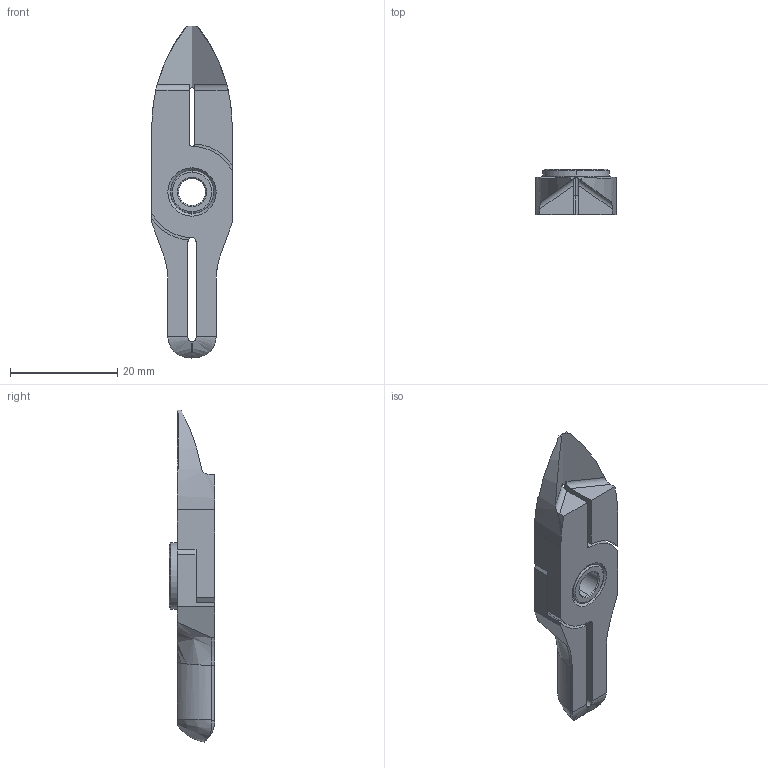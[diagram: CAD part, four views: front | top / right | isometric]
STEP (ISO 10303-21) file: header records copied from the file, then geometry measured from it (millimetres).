
FILE_DESCRIPTION (( 'STEP AP214' ), '1' );
FILE_NAME ('NY05AJL.STEP', '2019-11-28T02:44:42', ( '微软用户' ), ( '微软中国' ), 'SwSTEP 2.0', 'SolidWorks 2016', '' );
FILE_SCHEMA (( 'AUTOMOTIVE_DESIGN' ));
Length unit declared in the file: millimetre
Products named in the file (4): NY05AJL; BR2; BR1; BS
Assembly tree (3 placements, depth 2):
  NY05AJL
    BS
    BR1
    BR2
Bounding box: 15 x 8.5 x 62 mm (x, y, z)
Volume: 3772.5 mm3; surface area: 3822.6 mm2
Topology: 3 solids, 3 shells, 132 faces, 342 edges, 217 vertices
Faces by surface type: plane 41, cylinder 36, bspline 30, cone 21, torus 4
Entity records: 4720 total; most frequent: CARTESIAN_POINT 1567, ORIENTED_EDGE 676, DIRECTION 581, EDGE_CURVE 338, VERTEX_POINT 217, AXIS2_PLACEMENT_3D 214, VECTOR 153, LINE 153
